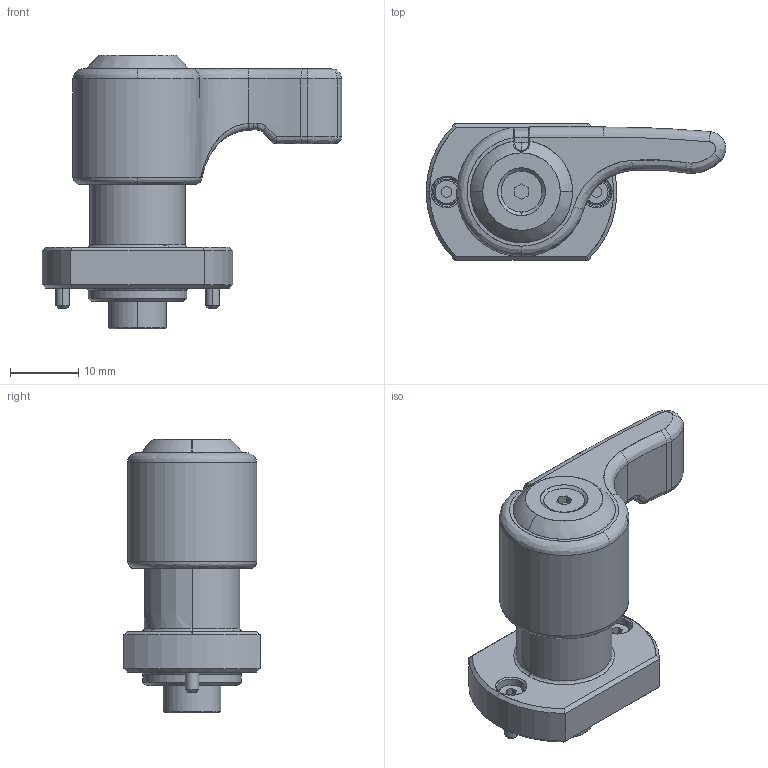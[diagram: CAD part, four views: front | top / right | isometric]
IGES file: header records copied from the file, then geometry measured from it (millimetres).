
Start section: SolidWorks IGES file using analytic representation for surfaces
Global section: file name: Y:\5.更新分\2023年対応\0405_諸々微修正分\QCPS0828-6-S-F\qcps0828-6-s-f.IGS; native system: SolidWorks 2021; preprocessor: SolidWorks 2021; author: ImaoCorp; date: 230407.105539; units: millimetre
Bounding box: 44 x 20 x 40.21 mm (x, y, z)
Surface area: 7408.6 mm2 (no closed solid volume)
Topology: 0 solids, 0 shells, 355 faces, 3699 edges, 3692 vertices
Faces by surface type: bspline 198, revolution 157
